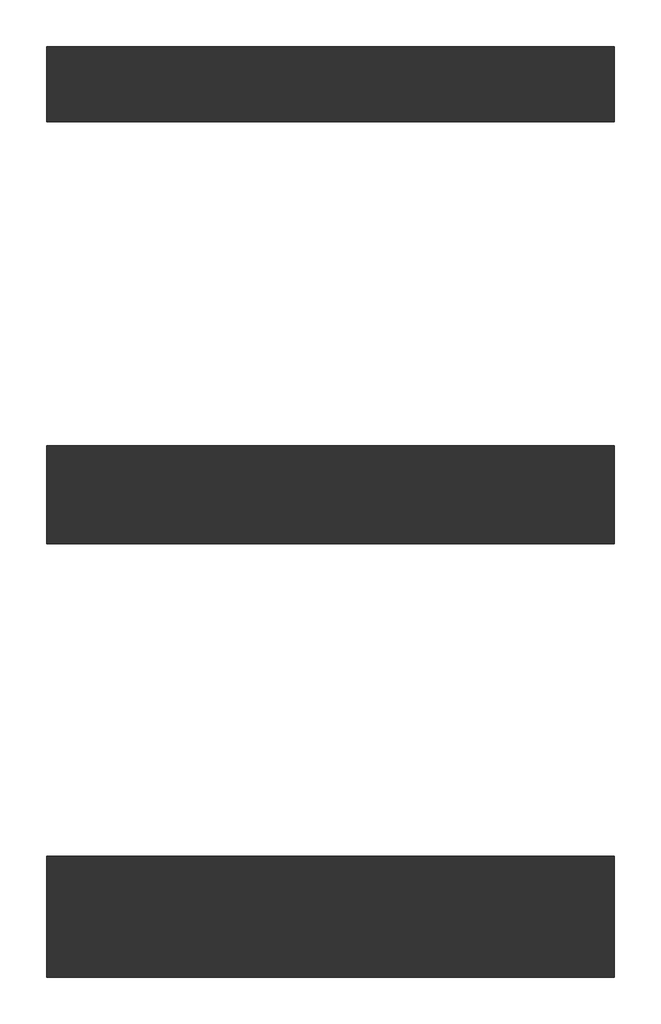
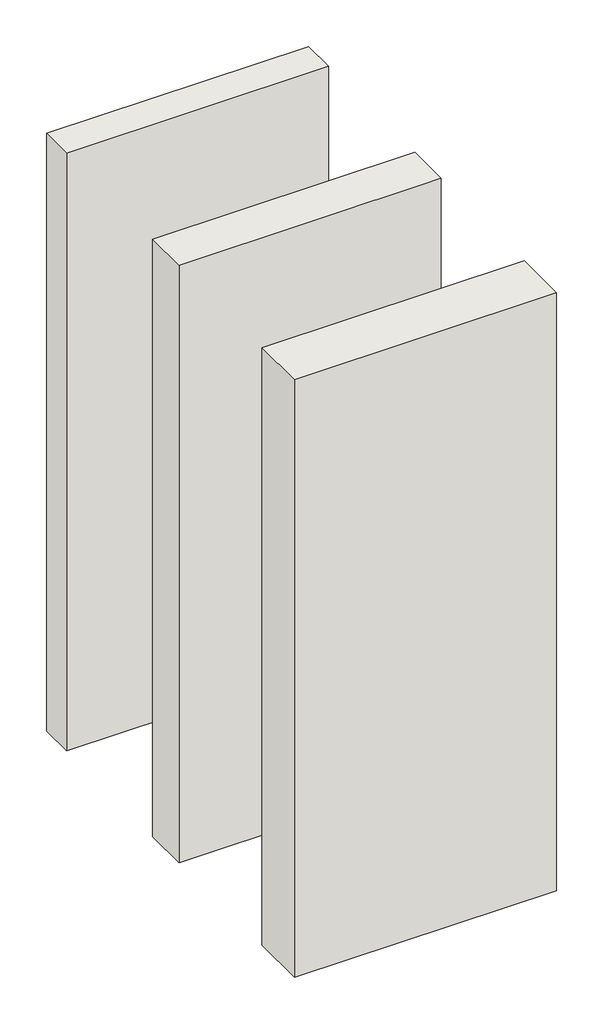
# One storey: 3 walls.
"""IFC4 building model written with IfcOpenShell, lengths in millimetres."""

import ifcopenshell
import ifcopenshell.guid

model = None  # the IFC model being written
_history = None  # IfcOwnerHistory: only IFC2X3 demands one
_inside = {}  # id of a spatial element -> (the spatial element, [elements in it])
_under = {}  # id of a project, library or spatial element -> (it, [spatial elements below it])
_declared = {}  # id of a project -> (the project, [libraries it declares])
_typed = {}  # id of a type object -> (the type object, [elements of that type])
_made_of = {}  # id of a material, layer set ... -> (it, [elements and type objects made of it])


def new_model(schema):
    """Start an empty IFC model of exactly this schema.

    Asked for "IFC4X3", IfcOpenShell would pick the latest addendum, in which some entities
    have other attributes; the version numbers below select the first issue.
    IFC2X3 requires an IfcOwnerHistory on every rooted entity: one is made here for all.
    """
    global model, _history
    if schema == "IFC4X3":
        model = ifcopenshell.file(schema_version=(4, 3, 0, 0))
    else:
        model = ifcopenshell.file(schema=schema)
    _inside.clear()
    _under.clear()
    _declared.clear()
    _typed.clear()
    _made_of.clear()
    _history = None
    if model.schema == "IFC2X3":
        org = make("IfcOrganization", Name="unknown")
        user = make(
            "IfcPersonAndOrganization",
            ThePerson=make("IfcPerson", FamilyName="unknown"),
            TheOrganization=org,
        )
        app = make(
            "IfcApplication",
            ApplicationDeveloper=org,
            Version="unknown",
            ApplicationFullName="unknown",
            ApplicationIdentifier="unknown",
        )
        _history = make(
            "IfcOwnerHistory",
            OwningUser=user,
            OwningApplication=app,
            ChangeAction="ADDED",
            CreationDate=0,
        )
    return model


def make(cls, **values):
    """One entity of the class cls with the attributes given. An attribute that is None is left unset."""
    return model.create_entity(
        cls, **{name: value for name, value in values.items() if value is not None}
    )


def rooted(cls, **values):
    """An entity with a GlobalId (a new one), such as an element, a storey or a relation."""
    return make(cls, GlobalId=ifcopenshell.guid.new(), OwnerHistory=_history, **values)


def si_unit(unit_type, name, prefix=None):
    """IfcSIUnit, for example si_unit("LENGTHUNIT", "METRE", prefix="MILLI")."""
    return make("IfcSIUnit", UnitType=unit_type, Prefix=prefix, Name=name)


def assignment(units):
    """IfcUnitAssignment: the units of a project."""
    return None if units is None else make("IfcUnitAssignment", Units=units)


def point(xyz):
    """IfcCartesianPoint."""
    return None if xyz is None else make("IfcCartesianPoint", Coordinates=xyz)


def direction(xyz):
    """IfcDirection."""
    return None if xyz is None else make("IfcDirection", DirectionRatios=xyz)


def frame(location, z_axis=None, x_axis=None):
    """IfcAxis2Placement3D, a coordinate frame: its origin and axes. An axis left out is left unset."""
    return make(
        "IfcAxis2Placement3D",
        Location=point(location),
        Axis=direction(z_axis),
        RefDirection=direction(x_axis),
    )


def origin():
    """The frame at (0, 0, 0) with its axes left unset."""
    return frame((0.0, 0.0, 0.0))


def origin_with_axes():
    """The frame at (0, 0, 0) with the z axis (0, 0, 1) and the x axis (1, 0, 0) written out."""
    return frame((0.0, 0.0, 0.0), z_axis=(0.0, 0.0, 1.0), x_axis=(1.0, 0.0, 0.0))


def place(relative_to, where):
    """IfcLocalPlacement: puts the frame where relative to a parent placement (None: the world)."""
    return make(
        "IfcLocalPlacement", PlacementRelTo=relative_to, RelativePlacement=where
    )


def context(
    kind, dimensions, precision=None, world=None, true_north=None, identifier=None
):
    """IfcGeometricRepresentationContext, for example the 3D "Model" context."""
    return make(
        "IfcGeometricRepresentationContext",
        ContextIdentifier=identifier,
        ContextType=kind,
        CoordinateSpaceDimension=dimensions,
        Precision=precision,
        WorldCoordinateSystem=world,
        TrueNorth=true_north,
    )


def project(units=None, contexts=None):
    """IfcProject with its units and contexts."""
    return rooted(
        "IfcProject",
        Name="project",
        RepresentationContexts=contexts,
        UnitsInContext=assignment(units),
    )


def spatial(cls, under=None, at=None, **own):
    """A site, building, storey or space (cls), placed at a placement, below another one or the project."""
    s = rooted(cls, ObjectPlacement=at, **own)
    if under is not None:
        _under.setdefault(under.id(), (under, []))[1].append(s)
    return s


def polyline(points):
    """IfcPolyline through the points."""
    return make("IfcPolyline", Points=[point(p) for p in points])


def outline(outer, holes=None, kind="AREA"):
    """IfcArbitraryClosedProfileDef: a profile drawn as a closed curve; with holes, ...WithVoids."""
    if holes is None:
        return make("IfcArbitraryClosedProfileDef", ProfileType=kind, OuterCurve=outer)
    return make(
        "IfcArbitraryProfileDefWithVoids",
        ProfileType=kind,
        OuterCurve=outer,
        InnerCurves=holes,
    )


def extrude(swept, where, along, depth):
    """IfcExtrudedAreaSolid: the profile swept, set in the frame where, extruded along a direction by depth."""
    return make(
        "IfcExtrudedAreaSolid",
        SweptArea=swept,
        Position=where,
        ExtrudedDirection=direction(along),
        Depth=depth,
    )


def shape(context_of_items, identifier, shape_type, items):
    """IfcShapeRepresentation: the items that make up one representation, for example the "Body"."""
    return make(
        "IfcShapeRepresentation",
        ContextOfItems=context_of_items,
        RepresentationIdentifier=identifier,
        RepresentationType=shape_type,
        Items=items,
    )


def made_of(thing, what):
    """Note that an element or type object is made of a material, layer set ...; save() writes the relation."""
    if what is not None:
        _made_of.setdefault(what.id(), (what, []))[1].append(thing)
    return thing


def element(
    cls,
    number,
    at=None,
    inside=None,
    cuts=None,
    type_object=None,
    material=None,
    context=None,
    identifier="Body",
    shape_type=None,
    held_by="IfcProductDefinitionShape",
    body=None,
    shapes=None,
    **own,
):
    """One element of the class cls, such as IfcWall. Its Tag is "e" and its number.

    at: its placement. inside: the storey or other place that contains it. cuts: it is an
    opening in that element (IfcRelVoidsElement). A single representation is given by context,
    identifier, shape_type and body (its items); several are given by shapes. held_by: the class
    of the entity that holds the representations. save() writes the other relations.
    """
    e = rooted(cls, Tag="e%d" % number, ObjectPlacement=at, **own)
    if body is not None:
        shapes = [shape(context, identifier, shape_type, body)]
    if shapes is not None:
        e.Representation = make(held_by, Representations=shapes)
    if inside is not None:
        _inside.setdefault(inside.id(), (inside, []))[1].append(e)
    if cuts is not None:
        rooted(
            "IfcRelVoidsElement", RelatingBuildingElement=cuts, RelatedOpeningElement=e
        )
    if type_object is not None:
        _typed.setdefault(type_object.id(), (type_object, []))[1].append(e)
    return made_of(e, material)


def aggregate(whole, parts):
    """IfcRelAggregates: a whole, such as a stair, and the parts it consists of."""
    return rooted("IfcRelAggregates", RelatingObject=whole, RelatedObjects=parts)


def save(model, path):
    """Write the relations noted so far, then the file.

    IfcRelAggregates (storeys below a building ...), IfcRelContainedInSpatialStructure (elements
    in a storey), IfcRelDefinesByType, IfcRelAssociatesMaterial and IfcRelDeclares: one each for
    every whole, place, type object, material and project.
    """
    for whole, parts in _under.values():
        aggregate(whole, parts)
    for where, things in _inside.values():
        rooted(
            "IfcRelContainedInSpatialStructure",
            RelatedElements=things,
            RelatingStructure=where,
        )
    for kind, things in _typed.values():
        rooted("IfcRelDefinesByType", RelatedObjects=things, RelatingType=kind)
    for what, things in _made_of.values():
        rooted("IfcRelAssociatesMaterial", RelatedObjects=things, RelatingMaterial=what)
    for by, libraries in _declared.values():
        rooted("IfcRelDeclares", RelatingContext=by, RelatedDefinitions=libraries)
    model.write(path)


model = new_model("IFC4")

# Units and contexts
model_context = context("Model", 3, world=origin())
ifc_project = project(units=[si_unit("LENGTHUNIT", "METRE", prefix="MILLI")], contexts=[model_context])

# Site, building, storey
site = spatial("IfcSite", under=ifc_project)
building = spatial("IfcBuilding", under=site)
storey = spatial("IfcBuildingStorey", under=building, Name="Уровень 1", Elevation=0.0)

# Walls
placement = place(None, origin())
element("IfcWall", 1, ObjectType="Перегородка-КНАУФ-С366-Применение внутри здания- +155/50@600 ГВЛ(ГВЛВ)  12,5", at=placement, inside=storey, context=model_context, shape_type="SweptSolid", body=[
    extrude(outline(polyline([(-9315.7236634, 13431.7035262), (-10560.2640717, 13431.7035262), (-10560.2640717, 13596.7035262), (-9315.7236634, 13596.7035262), (-9315.7236634, 13431.7035262)])), origin_with_axes(), (0.0, 0.0, 1.0), 3000.0),
])
element("IfcWall", 2, ObjectType="Перегородка-КНАУФ-С365-Применение внутри здания-200/75@600 ГВЛ(ГВЛВ)  12,5", at=placement, inside=storey, context=model_context, shape_type="SweptSolid", body=[
    extrude(outline(polyline([(-9315.7236634, 12506.7035262), (-10560.2640717, 12506.7035262), (-10560.2640717, 12721.7035262), (-9315.7236634, 12721.7035262), (-9315.7236634, 12506.7035262)])), origin_with_axes(), (0.0, 0.0, 1.0), 3000.0),
])
element("IfcWall", 3, ObjectType="Перегородка-КНАУФ-С366-Применение внутри здания-+255/100@600 ГВЛ(ГВЛВ)  12,5", at=placement, inside=storey, context=model_context, shape_type="SweptSolid", body=[
    extrude(outline(polyline([(-9315.7236634, 11556.7035262), (-10560.2640717, 11556.7035262), (-10560.2640717, 11821.7035262), (-9315.7236634, 11821.7035262), (-9315.7236634, 11556.7035262)])), origin_with_axes(), (0.0, 0.0, 1.0), 3000.0),
])

save(model, "model.ifc")
